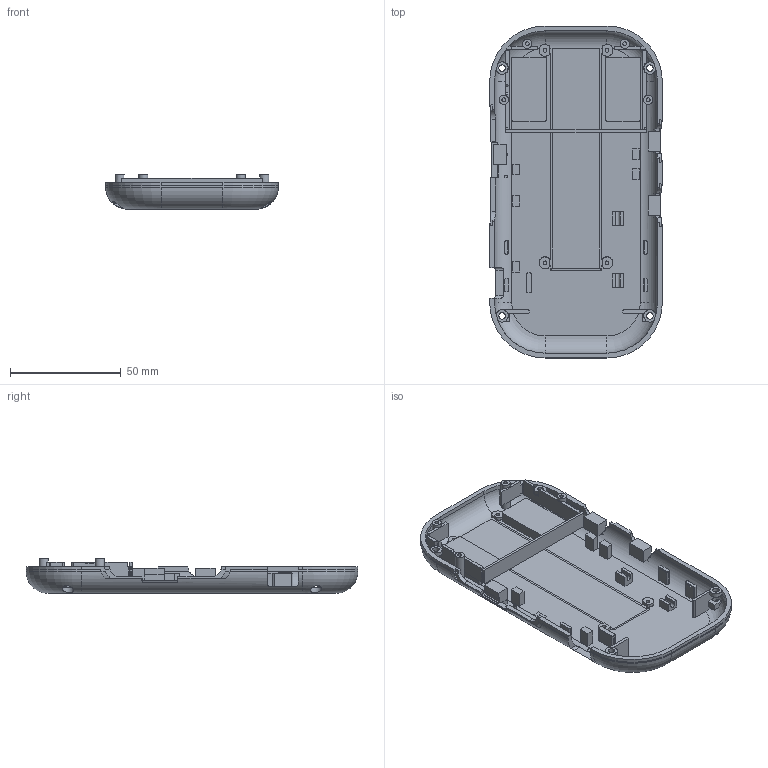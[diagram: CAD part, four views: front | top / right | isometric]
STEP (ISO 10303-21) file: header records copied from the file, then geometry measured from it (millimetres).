
FILE_DESCRIPTION(('Open CASCADE Model'),'2;1');
FILE_NAME('Open CASCADE Shape Model','2026-09-15T13:32:21',('Author'),( 'Open CASCADE'),'Open CASCADE STEP processor 7.7','Open CASCADE 7.7' ,'Unknown');
FILE_SCHEMA(('AUTOMOTIVE_DESIGN { 1 0 10303 214 1 1 1 1 }'));
Length unit declared in the file: millimetre
Products named in the file (1): P02_PASSIVE_ONLY_DIAGNOSTIC
Bounding box: 78 x 150 x 15.65 mm (x, y, z)
Volume: 37128.3 mm3; surface area: 34065.3 mm2
Topology: 1 solids, 1 shells, 657 faces, 1999 edges, 1356 vertices
Faces by surface type: plane 432, cylinder 187, cone 20, torus 18
Full cylindrical faces by diameter (mm): 1.7 x8, 2.9 x4, 4.2 x4
Entity records: 67851 total; most frequent: CARTESIAN_POINT 29518, DIRECTION 6854, LINE 4124, VECTOR 4124, ORIENTED_EDGE 3998, PCURVE 3998, DEFINITIONAL_REPRESENTATION 3998, EDGE_CURVE 1999
